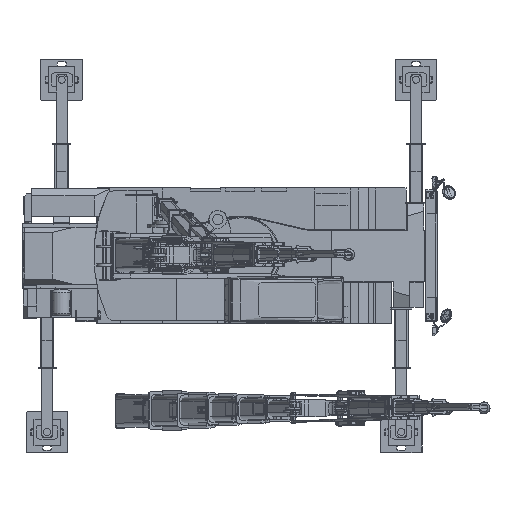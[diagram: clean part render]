
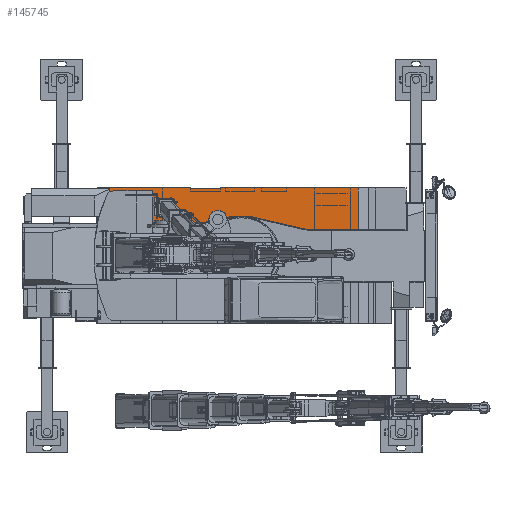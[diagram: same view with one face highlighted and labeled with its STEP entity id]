
A CAD part, top view. The second image highlights one B-rep face of the part: STEP entity #145745.
In plain terms, the highlighted planar face has unit normal (0, 0, 1).
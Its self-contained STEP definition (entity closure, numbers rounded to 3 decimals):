
#114043=AXIS2_PLACEMENT_3D('Plane Axis2P3D',#114040,#114041,#114042) ;
#114040=CARTESIAN_POINT('Axis2P3D Location',(2250.,1310.,-32.7)) ;
#143836=CARTESIAN_POINT('Vertex',(170.,760.,-32.7)) ;
#143866=CARTESIAN_POINT('Vertex',(1280.,505.,-32.7)) ;
#143869=CARTESIAN_POINT('Line Origine',(725.,632.5,-32.7)) ;
#143883=CARTESIAN_POINT('Line Origine',(-10.,760.,-32.7)) ;
#143887=CARTESIAN_POINT('Vertex',(-190.,760.,-32.7)) ;
#144035=CARTESIAN_POINT('Line Origine',(-470.,700.,-32.7)) ;
#144039=CARTESIAN_POINT('Vertex',(-750.,640.,-32.7)) ;
#144161=CARTESIAN_POINT('Vertex',(-990.,1310.,-32.7)) ;
#144164=CARTESIAN_POINT('Line Origine',(-990.,1306.,-32.7)) ;
#144168=CARTESIAN_POINT('Vertex',(-990.,1302.,-32.7)) ;
#144485=CARTESIAN_POINT('Line Origine',(-700.,1302.,-32.7)) ;
#144489=CARTESIAN_POINT('Vertex',(-410.,1302.,-32.7)) ;
#144563=CARTESIAN_POINT('Vertex',(-2580.,640.,-32.7)) ;
#144568=CARTESIAN_POINT('Line Origine',(-2580.,975.,-32.7)) ;
#144572=CARTESIAN_POINT('Vertex',(-2580.,1310.,-32.7)) ;
#145018=CARTESIAN_POINT('Vertex',(2250.,505.,-32.7)) ;
#145025=CARTESIAN_POINT('Vertex',(2250.,1310.,-32.7)) ;
#145028=CARTESIAN_POINT('Line Origine',(2250.,907.5,-32.7)) ;
#145580=CARTESIAN_POINT('Line Origine',(920.,1310.,-32.7)) ;
#145584=CARTESIAN_POINT('Vertex',(-410.,1310.,-32.7)) ;
#145639=CARTESIAN_POINT('Line Origine',(-410.,1306.,-32.7)) ;
#145689=CARTESIAN_POINT('Line Origine',(-1785.,1310.,-32.7)) ;
#145721=CARTESIAN_POINT('Line Origine',(1765.,505.,-32.7)) ;
#145726=CARTESIAN_POINT('Line Origine',(-1665.,640.,-32.7)) ;
#114041=DIRECTION('Axis2P3D Direction',(0.,0.,1.)) ;
#114042=DIRECTION('Axis2P3D XDirection',(-1.,0.,0.)) ;
#143870=DIRECTION('Vector Direction',(0.975,-0.224,0.)) ;
#143884=DIRECTION('Vector Direction',(-1.,0.,0.)) ;
#144036=DIRECTION('Vector Direction',(-0.978,-0.21,0.)) ;
#144165=DIRECTION('Vector Direction',(0.,-1.,0.)) ;
#144486=DIRECTION('Vector Direction',(-1.,0.,0.)) ;
#144569=DIRECTION('Vector Direction',(0.,-1.,0.)) ;
#145029=DIRECTION('Vector Direction',(0.,-1.,0.)) ;
#145581=DIRECTION('Vector Direction',(-1.,0.,0.)) ;
#145640=DIRECTION('Vector Direction',(0.,-1.,0.)) ;
#145690=DIRECTION('Vector Direction',(-1.,0.,0.)) ;
#145722=DIRECTION('Vector Direction',(-1.,0.,0.)) ;
#145727=DIRECTION('Vector Direction',(-1.,0.,0.)) ;
#143871=VECTOR('Line Direction',#143870,1.) ;
#143885=VECTOR('Line Direction',#143884,1.) ;
#144037=VECTOR('Line Direction',#144036,1.) ;
#144166=VECTOR('Line Direction',#144165,1.) ;
#144487=VECTOR('Line Direction',#144486,1.) ;
#144570=VECTOR('Line Direction',#144569,1.) ;
#145030=VECTOR('Line Direction',#145029,1.) ;
#145582=VECTOR('Line Direction',#145581,1.) ;
#145641=VECTOR('Line Direction',#145640,1.) ;
#145691=VECTOR('Line Direction',#145690,1.) ;
#145723=VECTOR('Line Direction',#145722,1.) ;
#145728=VECTOR('Line Direction',#145727,1.) ;
#145732=ORIENTED_EDGE('',*,*,#145725,.T.) ;
#145733=ORIENTED_EDGE('',*,*,#145032,.F.) ;
#145734=ORIENTED_EDGE('',*,*,#145586,.F.) ;
#145735=ORIENTED_EDGE('',*,*,#145643,.T.) ;
#145736=ORIENTED_EDGE('',*,*,#144491,.T.) ;
#145737=ORIENTED_EDGE('',*,*,#144170,.F.) ;
#145738=ORIENTED_EDGE('',*,*,#145693,.F.) ;
#145739=ORIENTED_EDGE('',*,*,#144574,.T.) ;
#145740=ORIENTED_EDGE('',*,*,#145730,.F.) ;
#145741=ORIENTED_EDGE('',*,*,#144041,.F.) ;
#145742=ORIENTED_EDGE('',*,*,#143889,.F.) ;
#145743=ORIENTED_EDGE('',*,*,#143873,.T.) ;
#145745=ADVANCED_FACE('\X2\FF8AFF9FFF70FF82\X0\ \X2\FF8EFF9EFF83FF9EFF68FF70\X0\',(#145744),#114044,.T.) ;
#143873=EDGE_CURVE('',#143837,#143867,#143872,.T.) ;
#143889=EDGE_CURVE('',#143837,#143888,#143886,.T.) ;
#144041=EDGE_CURVE('',#143888,#144040,#144038,.T.) ;
#144170=EDGE_CURVE('',#144162,#144169,#144167,.T.) ;
#144491=EDGE_CURVE('',#144490,#144169,#144488,.T.) ;
#144574=EDGE_CURVE('',#144573,#144564,#144571,.T.) ;
#145032=EDGE_CURVE('',#145026,#145019,#145031,.T.) ;
#145586=EDGE_CURVE('',#145585,#145026,#145583,.F.) ;
#145643=EDGE_CURVE('',#145585,#144490,#145642,.T.) ;
#145693=EDGE_CURVE('',#144573,#144162,#145692,.F.) ;
#145725=EDGE_CURVE('',#143867,#145019,#145724,.F.) ;
#145730=EDGE_CURVE('',#144040,#144564,#145729,.T.) ;
#145731=EDGE_LOOP('',(#145732,#145733,#145734,#145735,#145736,#145737,#145738,#145739,#145740,#145741,#145742,#145743)) ;
#145744=FACE_OUTER_BOUND('',#145731,.T.) ;
#143872=LINE('Line',#143869,#143871) ;
#143886=LINE('Line',#143883,#143885) ;
#144038=LINE('Line',#144035,#144037) ;
#144167=LINE('Line',#144164,#144166) ;
#144488=LINE('Line',#144485,#144487) ;
#144571=LINE('Line',#144568,#144570) ;
#145031=LINE('Line',#145028,#145030) ;
#145583=LINE('Line',#145580,#145582) ;
#145642=LINE('Line',#145639,#145641) ;
#145692=LINE('Line',#145689,#145691) ;
#145724=LINE('Line',#145721,#145723) ;
#145729=LINE('Line',#145726,#145728) ;
#114044=PLANE('',#114043) ;
#143837=VERTEX_POINT('',#143836) ;
#143867=VERTEX_POINT('',#143866) ;
#143888=VERTEX_POINT('',#143887) ;
#144040=VERTEX_POINT('',#144039) ;
#144162=VERTEX_POINT('',#144161) ;
#144169=VERTEX_POINT('',#144168) ;
#144490=VERTEX_POINT('',#144489) ;
#144564=VERTEX_POINT('',#144563) ;
#144573=VERTEX_POINT('',#144572) ;
#145019=VERTEX_POINT('',#145018) ;
#145026=VERTEX_POINT('',#145025) ;
#145585=VERTEX_POINT('',#145584) ;
